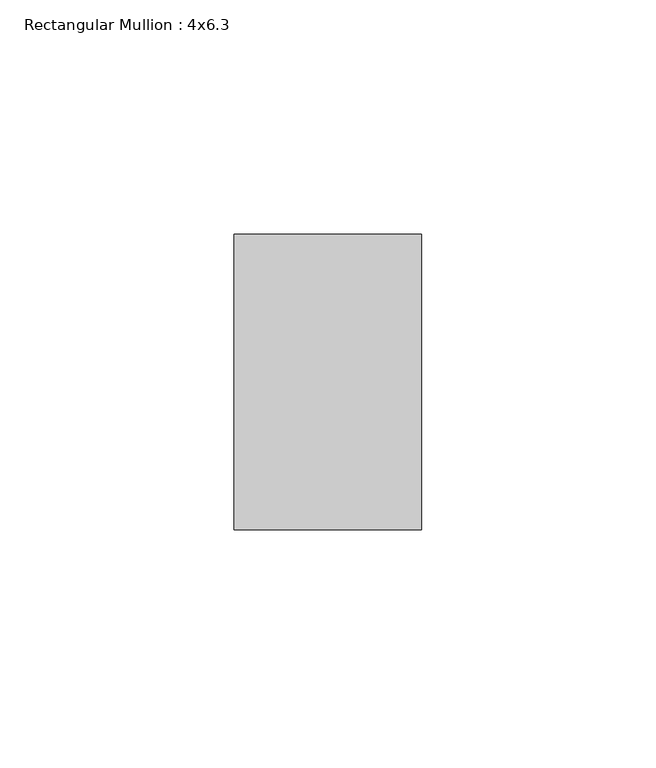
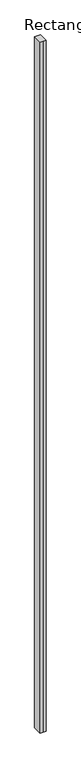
"""IFC4 building model written with IfcOpenShell, lengths in millimetres: member geometry, Rectangular Mullion : 4x6.3."""

from ifc_helpers import new_model, si_unit, frame, origin, place, context, project, spatial, polyline, outline, extrude, source, transform, mapped, element, save


def rectangular_mullion_4x6_3_5ae10389(model_context):
    return source(origin(), model_context, "Body", "SweptSolid", [
        extrude(outline(polyline([(-20.0, 20.0), (-20.0, 83.0), (20.0, 83.0), (20.0, 20.0), (0.0, 20.0), (-20.0, 20.0)])), frame((0.0, 0.0, -4924.0771278), z_axis=(0.0, 0.0, 1.0), x_axis=(1.0, 0.0, 0.0)), (0.0, 0.0, 1.0), 4924.0771278),
    ])


if __name__ == "__main__":
    model = new_model("IFC4")
    model_context = context("Model", 3, world=origin())
    ifc_project = project(units=[si_unit("LENGTHUNIT", "METRE", prefix="MILLI")], contexts=[model_context])
    site = spatial("IfcSite", under=ifc_project)
    building = spatial("IfcBuilding", under=site)
    placement = place(None, origin())
    rectangular_mullion_4x6_3_shape = rectangular_mullion_4x6_3_5ae10389(model_context)
    element("IfcMember", 1, ObjectType="Rectangular Mullion : 4x6.3", at=placement, inside=building, context=model_context, shape_type="MappedRepresentation", body=[
        mapped(rectangular_mullion_4x6_3_shape, transform((0.0, 0.0, 0.0), x_axis=(1.0, 0.0, 0.0), y_axis=(0.0, 1.0, 0.0), z_axis=(0.0, 0.0, 1.0))),
    ])
    save(model, "model.ifc")
